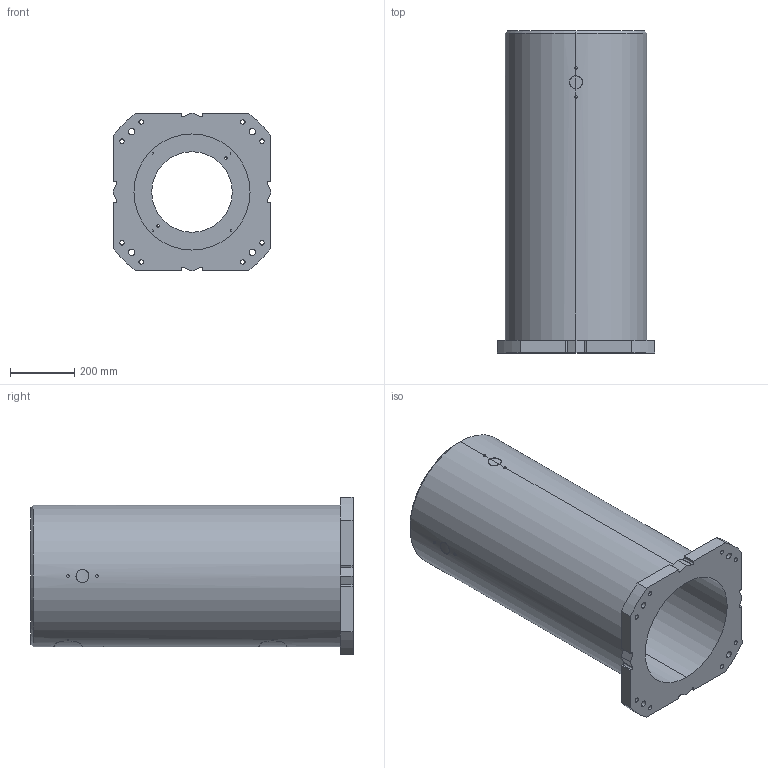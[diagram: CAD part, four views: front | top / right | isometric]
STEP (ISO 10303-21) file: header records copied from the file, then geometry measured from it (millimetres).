
FILE_DESCRIPTION (( 'STEP AP214' ), '1' );
FILE_NAME ('G-1000.STEP', '2025-12-05T13:19:37', ( '' ), ( '' ), 'SwSTEP 2.0', 'SolidWorks 2022', '' );
FILE_SCHEMA (( 'AUTOMOTIVE_DESIGN' ));
Length unit declared in the file: millimetre
Products named in the file (1): G-1000
Bounding box: 490 x 1000 x 490 mm (x, y, z)
Volume: 55112533.5 mm3; surface area: 2900977.9 mm2
Topology: 1 solids, 1 shells, 175 faces, 473 edges, 308 vertices
Faces by surface type: cylinder 113, plane 28, bspline 24, cone 10
Entity records: 11233 total; most frequent: CARTESIAN_POINT 6338, ORIENTED_EDGE 930, DIRECTION 741, EDGE_CURVE 465, VERTEX_POINT 308, AXIS2_PLACEMENT_3D 278, EDGE_LOOP 221, LINE 185
